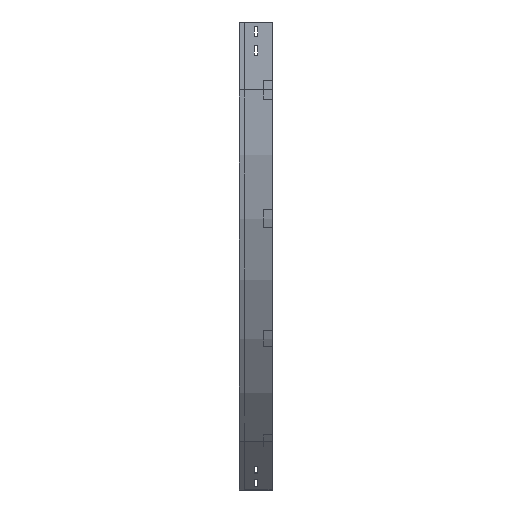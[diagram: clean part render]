
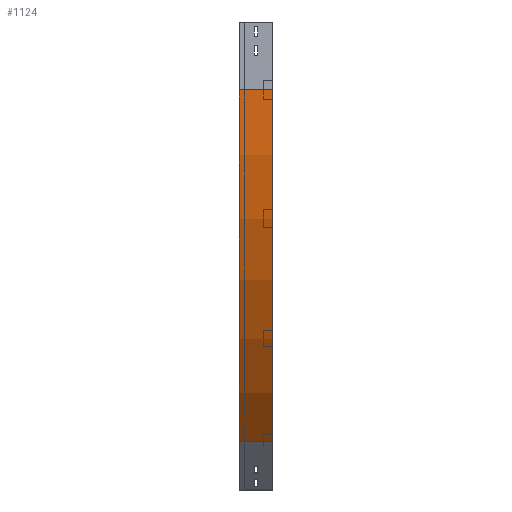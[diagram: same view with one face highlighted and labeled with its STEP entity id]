
A CAD part, left-side view. The second image highlights one B-rep face of the part: STEP entity #1124.
In plain terms, the highlighted cylindrical face has radius 1100 mm (diameter 2200 mm), a partial arc.
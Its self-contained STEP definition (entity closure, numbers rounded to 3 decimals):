
#93 = EDGE_CURVE ( 'NONE', #3806, #1095, #1605, .T. ) ;
#109 = AXIS2_PLACEMENT_3D ( 'NONE', #2913, #238, #3020 ) ;
#238 = DIRECTION ( 'NONE',  ( 0., -1., 0. ) ) ;
#319 = ORIENTED_EDGE ( 'NONE', *, *, #2225, .T. ) ;
#541 = EDGE_LOOP ( 'NONE', ( #1848, #1050, #738, #319 ) ) ;
#611 = CARTESIAN_POINT ( 'NONE',  ( 322.183, 0., -927.817 ) ) ;
#685 = DIRECTION ( 'NONE',  ( 0., -1., 0. ) ) ;
#738 = ORIENTED_EDGE ( 'NONE', *, *, #93, .T. ) ;
#791 = DIRECTION ( 'NONE',  ( 0., -1., 0. ) ) ;
#809 = CYLINDRICAL_SURFACE ( 'NONE', #1042, 1100. ) ;
#866 = LINE ( 'NONE', #2946, #1519 ) ;
#1042 = AXIS2_PLACEMENT_3D ( 'NONE', #2261, #791, #1403 ) ;
#1050 = ORIENTED_EDGE ( 'NONE', *, *, #2612, .F. ) ;
#1095 = VERTEX_POINT ( 'NONE', #3429 ) ;
#1124 = ADVANCED_FACE ( 'NONE', ( #3742 ), #809, .T. ) ;
#1178 = VERTEX_POINT ( 'NONE', #3576 ) ;
#1217 = CARTESIAN_POINT ( 'NONE',  ( 1100., 75., -150. ) ) ;
#1403 = DIRECTION ( 'NONE',  ( 0., 0., -1. ) ) ;
#1436 = CARTESIAN_POINT ( 'NONE',  ( 0., 75., -150. ) ) ;
#1519 = VECTOR ( 'NONE', #1756, 1000. ) ;
#1605 = CIRCLE ( 'NONE', #3771, 1100. ) ;
#1756 = DIRECTION ( 'NONE',  ( 0., -1., 0. ) ) ;
#1843 = VECTOR ( 'NONE', #685, 1000. ) ;
#1848 = ORIENTED_EDGE ( 'NONE', *, *, #2495, .F. ) ;
#2035 = DIRECTION ( 'NONE',  ( 0., -1., 0. ) ) ;
#2225 = EDGE_CURVE ( 'NONE', #1095, #2615, #3642, .T. ) ;
#2261 = CARTESIAN_POINT ( 'NONE',  ( 1100., 0., -150. ) ) ;
#2378 = DIRECTION ( 'NONE',  ( -1., 0., 0. ) ) ;
#2495 = EDGE_CURVE ( 'NONE', #1178, #2615, #3777, .T. ) ;
#2612 = EDGE_CURVE ( 'NONE', #3806, #1178, #866, .T. ) ;
#2615 = VERTEX_POINT ( 'NONE', #611 ) ;
#2913 = CARTESIAN_POINT ( 'NONE',  ( 1100., 0., -150. ) ) ;
#2946 = CARTESIAN_POINT ( 'NONE',  ( 0., 0., -150. ) ) ;
#3020 = DIRECTION ( 'NONE',  ( -1., 0., 0. ) ) ;
#3348 = CARTESIAN_POINT ( 'NONE',  ( 322.183, 0., -927.817 ) ) ;
#3429 = CARTESIAN_POINT ( 'NONE',  ( 322.183, 75., -927.817 ) ) ;
#3576 = CARTESIAN_POINT ( 'NONE',  ( 0., 0., -150. ) ) ;
#3642 = LINE ( 'NONE', #3348, #1843 ) ;
#3742 = FACE_OUTER_BOUND ( 'NONE', #541, .T. ) ;
#3771 = AXIS2_PLACEMENT_3D ( 'NONE', #1217, #2035, #2378 ) ;
#3777 = CIRCLE ( 'NONE', #109, 1100. ) ;
#3806 = VERTEX_POINT ( 'NONE', #1436 ) ;
